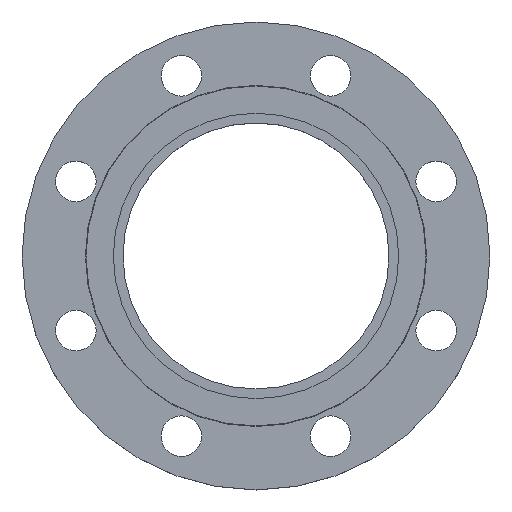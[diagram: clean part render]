
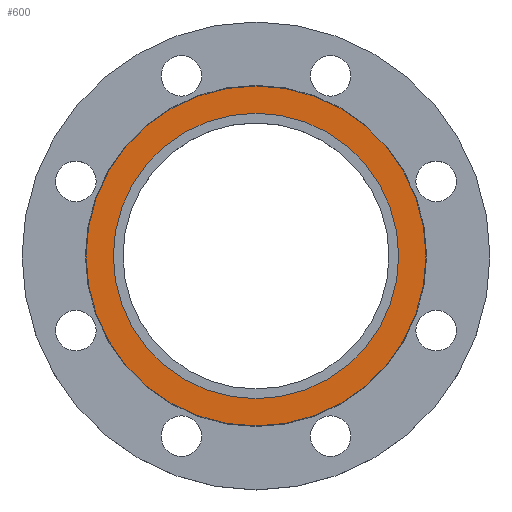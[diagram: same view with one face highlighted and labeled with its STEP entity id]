
A CAD part, top view. The second image highlights one B-rep face of the part: STEP entity #600.
In plain terms, the highlighted planar face has unit normal (0, 0, 1).
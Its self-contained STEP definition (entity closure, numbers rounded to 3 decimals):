
#1 = FACE_BOUND ( 'NONE', #679, .T. ) ;
#32 = ORIENTED_EDGE ( 'NONE', *, *, #652, .T. ) ;
#37 = ORIENTED_EDGE ( 'NONE', *, *, #464, .F. ) ;
#50 = CIRCLE ( 'NONE', #852, 91.5 ) ;
#70 = CARTESIAN_POINT ( 'NONE',  ( -109., 0., 0. ) ) ;
#104 = DIRECTION ( 'NONE',  ( 0., 0., -1. ) ) ;
#119 = CARTESIAN_POINT ( 'NONE',  ( 0., 0., 0. ) ) ;
#183 = ORIENTED_EDGE ( 'NONE', *, *, #356, .T. ) ;
#199 = AXIS2_PLACEMENT_3D ( 'NONE', #647, #908, #256 ) ;
#233 = CARTESIAN_POINT ( 'NONE',  ( 0., 0., 0. ) ) ;
#240 = AXIS2_PLACEMENT_3D ( 'NONE', #119, #441, #736 ) ;
#241 = VERTEX_POINT ( 'NONE', #423 ) ;
#256 = DIRECTION ( 'NONE',  ( 1., 0., 0. ) ) ;
#283 = VERTEX_POINT ( 'NONE', #861 ) ;
#293 = CIRCLE ( 'NONE', #297, 109. ) ;
#297 = AXIS2_PLACEMENT_3D ( 'NONE', #233, #567, #839 ) ;
#301 = CARTESIAN_POINT ( 'NONE',  ( 0., 0., 0. ) ) ;
#332 = PLANE ( 'NONE',  #199 ) ;
#356 = EDGE_CURVE ( 'NONE', #241, #814, #670, .T. ) ;
#423 = CARTESIAN_POINT ( 'NONE',  ( -91.5, 0., 0. ) ) ;
#430 = DIRECTION ( 'NONE',  ( -1., 0., 0. ) ) ;
#441 = DIRECTION ( 'NONE',  ( 0., 0., -1. ) ) ;
#458 = AXIS2_PLACEMENT_3D ( 'NONE', #301, #617, #885 ) ;
#464 = EDGE_CURVE ( 'NONE', #531, #283, #527, .T. ) ;
#527 = CIRCLE ( 'NONE', #458, 109. ) ;
#531 = VERTEX_POINT ( 'NONE', #70 ) ;
#567 = DIRECTION ( 'NONE',  ( 0., 0., -1. ) ) ;
#600 = ADVANCED_FACE ( 'NONE', ( #716, #1 ), #332, .T. ) ;
#617 = DIRECTION ( 'NONE',  ( 0., 0., -1. ) ) ;
#647 = CARTESIAN_POINT ( 'NONE',  ( 0., 0., 0. ) ) ;
#652 = EDGE_CURVE ( 'NONE', #814, #241, #50, .T. ) ;
#670 = CIRCLE ( 'NONE', #240, 91.5 ) ;
#679 = EDGE_LOOP ( 'NONE', ( #183, #32 ) ) ;
#680 = EDGE_LOOP ( 'NONE', ( #37, #957 ) ) ;
#716 = FACE_OUTER_BOUND ( 'NONE', #680, .T. ) ;
#736 = DIRECTION ( 'NONE',  ( -1., 0., 0. ) ) ;
#793 = CARTESIAN_POINT ( 'NONE',  ( 0., 0., 0. ) ) ;
#814 = VERTEX_POINT ( 'NONE', #947 ) ;
#839 = DIRECTION ( 'NONE',  ( -1., 0., 0. ) ) ;
#852 = AXIS2_PLACEMENT_3D ( 'NONE', #793, #104, #430 ) ;
#861 = CARTESIAN_POINT ( 'NONE',  ( 109., 0., 0. ) ) ;
#885 = DIRECTION ( 'NONE',  ( -1., 0., 0. ) ) ;
#906 = EDGE_CURVE ( 'NONE', #283, #531, #293, .T. ) ;
#908 = DIRECTION ( 'NONE',  ( 0., 0., 1. ) ) ;
#947 = CARTESIAN_POINT ( 'NONE',  ( 91.5, 0., 0. ) ) ;
#957 = ORIENTED_EDGE ( 'NONE', *, *, #906, .F. ) ;
